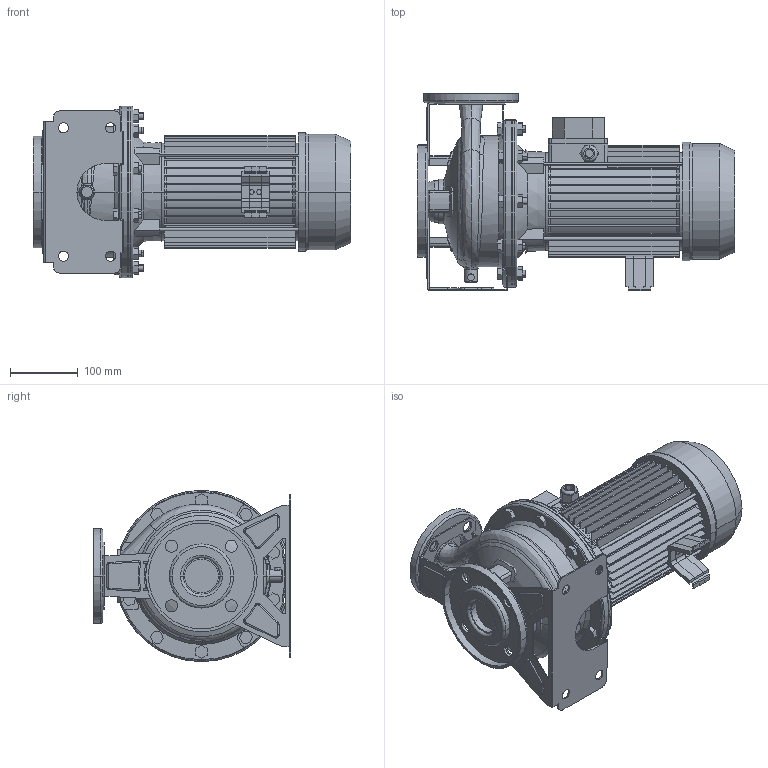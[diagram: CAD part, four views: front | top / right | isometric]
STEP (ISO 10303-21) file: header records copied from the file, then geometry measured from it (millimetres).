
FILE_DESCRIPTION((''),'2;1');
FILE_NAME('3M_32-160_3_06_E_ASM','2011-07-06T',('Utente'),('"Ebara Pumps Europe +39.444.706811"'),'PRO/ENGINEER BY PARAMETRIC TECHNOLOGY CORPORATION, 2009360','PRO/ENGINEER BY PARAMETRIC TECHNOLOGY CORPORATION, 2009360','');
FILE_SCHEMA(('AUTOMOTIVE_DESIGN { 1 0 10303 214 1 1 1 1 }'));
Length unit declared in the file: millimetre
Products named in the file (11): MEC_90X140_IE2; SUPPORTO_3M_190_90; CORPO_32-160; ASP_32-160; FLANGIA_DIN_50; MAND_32-160; FLANGIA_DIN_32; BASE_3M_32-160; CORPO_SALDATO_32-160_ASM; SOSTEGNO_72004; 3M_32-160_3_06_E_ASM
Assembly tree (11 placements, depth 3):
  3M_32-160_3_06_E_ASM
    MEC_90X140_IE2
    SUPPORTO_3M_190_90
    CORPO_SALDATO_32-160_ASM
      CORPO_32-160
      ASP_32-160
      FLANGIA_DIN_50
      MAND_32-160
      FLANGIA_DIN_32
      BASE_3M_32-160
    SOSTEGNO_72004  x2
Bounding box: 471 x 292 x 254 mm (x, y, z)
Volume: 7252704.3 mm3; surface area: 1087292.7 mm2
Topology: 13 solids, 13 shells, 1076 faces, 2748 edges, 1755 vertices
Faces by surface type: plane 574, cylinder 311, cone 94, torus 60, bspline 31, sphere 6
Entity records: 45857 total; most frequent: CARTESIAN_POINT 8969, DIRECTION 5466, ORIENTED_EDGE 5328, PRESENTATION_STYLE_ASSIGNMENT 2676, STYLED_ITEM 2676, CURVE_STYLE 2664, EDGE_CURVE 2664, AXIS2_PLACEMENT_3D 1999
